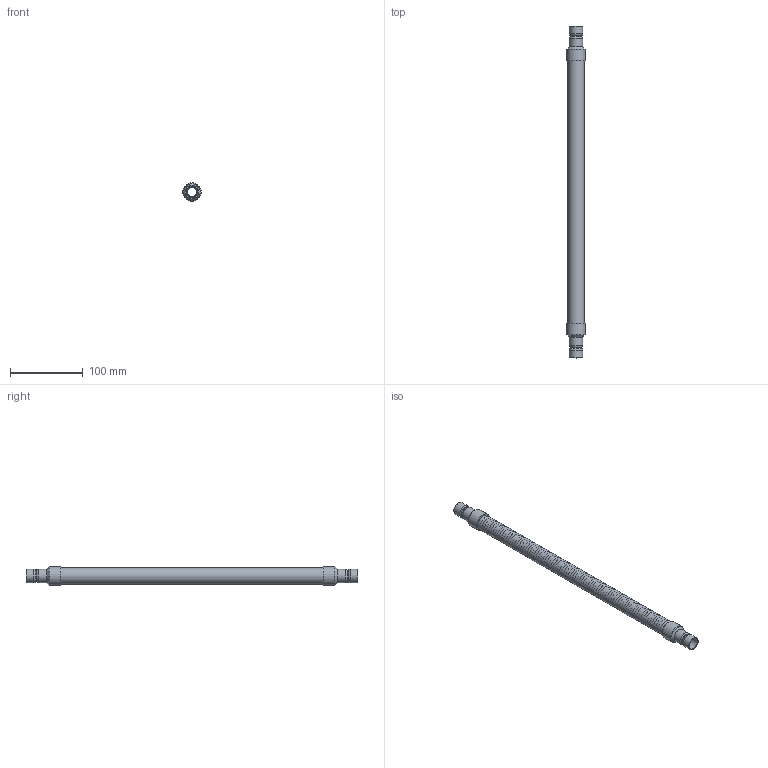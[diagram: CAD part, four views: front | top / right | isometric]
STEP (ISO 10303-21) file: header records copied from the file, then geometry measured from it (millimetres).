
FILE_DESCRIPTION((''),'2;1');
FILE_NAME('C:\2012_Work\Designs\CPSB\CPSB-0.5x18.stp','2013-08-26T14:56:05',('KShiels'),(''),'Autodesk Inventor 2012','Autodesk Inventor 2012','');
FILE_SCHEMA(('AUTOMOTIVE_DESIGN { 1 0 10303 214 1 1 1 1 }'));
Length unit declared in the file: inch
Products named in the file (6): CPSB-0; CPSB-0_Welds; A-32703_0
Assembly tree (7 placements, depth 2):
  CPSB-0
    CPSB-0_Welds
    A-32703_0
    A-32703_0
    A-32703_0  x2
    A-32703_0  x2
Bounding box: 25.37 x 457.2 x 25.37 mm (x, y, z)
Volume: 33631.8 mm3; surface area: 177029.4 mm2
Topology: 8 solids, 8 shells, 798 faces, 1214 edges, 806 vertices
Faces by surface type: plane 390, torus 390, cylinder 16, cone 2
Full cylindrical faces by diameter (mm): 15.926 x4, 18.415 x6, 21.59 x1, 22.2 x3, 25.375 x2
Entity records: 15922 total; most frequent: DIRECTION 3162, CARTESIAN_POINT 2367, AXIS2_PLACEMENT_3D 1581, ORIENTED_EDGE 1572, EDGE_LOOP 1564, VERTEX_POINT 786, CIRCLE 786, EDGE_CURVE 786
